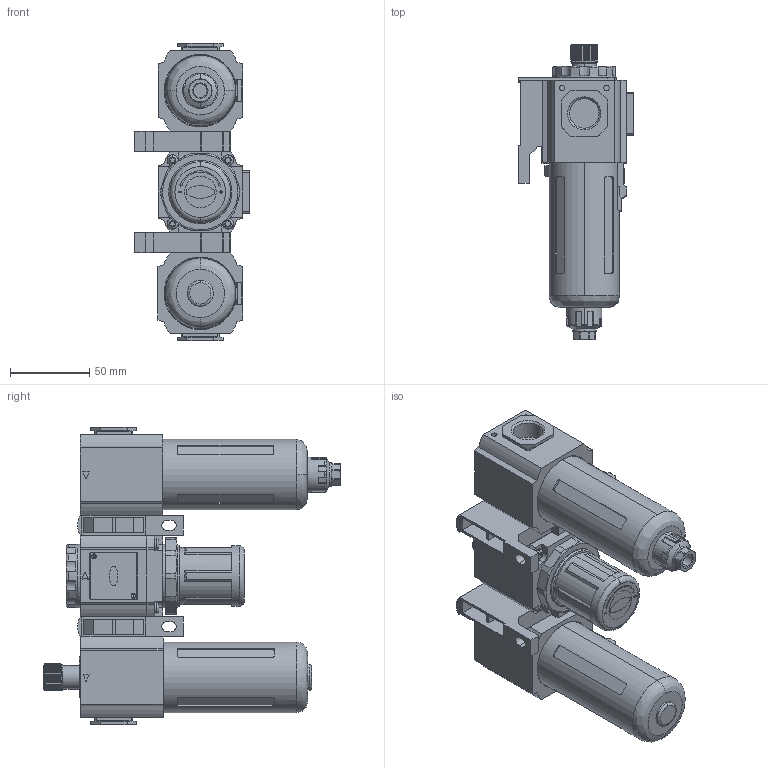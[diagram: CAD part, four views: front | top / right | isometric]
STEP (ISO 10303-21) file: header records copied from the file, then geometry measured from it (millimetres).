
FILE_DESCRIPTION (( 'STEP AP214' ), '1' );
FILE_NAME ('GC-300-15-F1.STEP', '2016-01-22T14:55:12', ( '' ), ( '' ), 'SwSTEP 2.0', 'SolidWorks 2016', '' );
FILE_SCHEMA (( 'AUTOMOTIVE_DESIGN' ));
Length unit declared in the file: millimetre
Products named in the file (29): 20; 4; 25; 27; 3; 18; 6; 22; 19; 21; 23; 16; 12; 17; 9; 14; 8; 15; 13; 7; 26; 1; 11; 5; 2; 28; 24; GC-300-15-F1; 10
Assembly tree (28 placements, depth 2):
  GC-300-15-F1
    1
    2
    3
    4
    5
    6
    7
    8
    9
    10
    11
    12
    13
    14
    15
    16
    17
    18
    19
    20
    21
    22
    23
    24
    25
    26
    27
    28
Bounding box: 72.5 x 187 x 188 mm (x, y, z)
Volume: 615318.2 mm3; surface area: 186257.6 mm2
Topology: 28 solids, 28 shells, 1916 faces, 4918 edges, 3231 vertices
Faces by surface type: plane 1223, cylinder 518, bspline 91, cone 84
Entity records: 84220 total; most frequent: CARTESIAN_POINT 15259, ORIENTED_EDGE 9836, DIRECTION 9566, EDGE_CURVE 4918, AXIS2_PLACEMENT_3D 3264, VERTEX_POINT 3231, VECTOR 3038, LINE 3038
